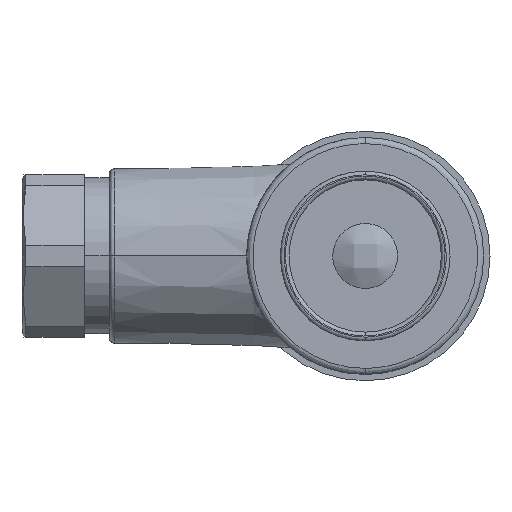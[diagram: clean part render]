
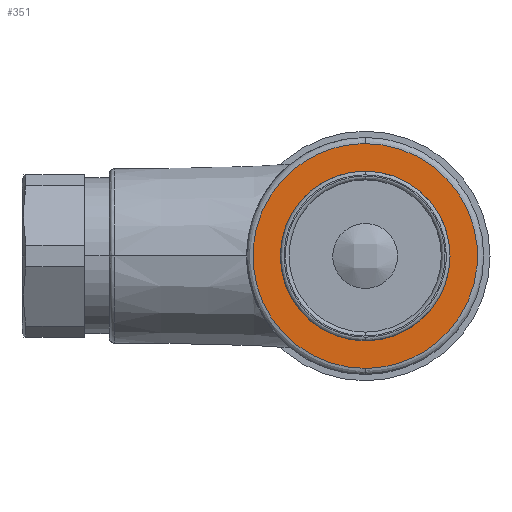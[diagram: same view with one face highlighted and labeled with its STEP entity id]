
A CAD part, left-side view. The second image highlights one B-rep face of the part: STEP entity #351.
In plain terms, the highlighted planar face has unit normal (-1, 0, 0).
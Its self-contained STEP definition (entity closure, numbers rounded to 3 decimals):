
#18 = CIRCLE ( 'NONE', #1682, 6.8 ) ;
#89 =( BOUNDED_CURVE ( )  B_SPLINE_CURVE ( 3, ( #1773, #979, #3474, #1307 ),
 .UNSPECIFIED., .F., .T. ) 
 B_SPLINE_CURVE_WITH_KNOTS ( ( 4, 4 ),
 ( 0., 1. ),
 .UNSPECIFIED. ) 
 CURVE ( )  GEOMETRIC_REPRESENTATION_ITEM ( )  RATIONAL_B_SPLINE_CURVE ( ( 1., 0.333, 0.333, 1. ) ) 
 REPRESENTATION_ITEM ( '' )  );
#189 = VERTEX_POINT ( 'NONE', #3544 ) ;
#200 = VERTEX_POINT ( 'NONE', #3113 ) ;
#227 = DIRECTION ( 'NONE',  ( 1., 0., 0. ) ) ;
#339 =( BOUNDED_CURVE ( )  B_SPLINE_CURVE ( 3, ( #5378, #773, #2971, #2542 ),
 .UNSPECIFIED., .F., .T. ) 
 B_SPLINE_CURVE_WITH_KNOTS ( ( 4, 4 ),
 ( 0., 1. ),
 .UNSPECIFIED. ) 
 CURVE ( )  GEOMETRIC_REPRESENTATION_ITEM ( )  RATIONAL_B_SPLINE_CURVE ( ( 1., 0.333, 0.333, 1. ) ) 
 REPRESENTATION_ITEM ( '' )  );
#351 = ADVANCED_FACE ( 'NONE', ( #5228, #1465 ), #4488, .F. ) ;
#399 = DIRECTION ( 'NONE',  ( -1., 0., 0. ) ) ;
#402 = EDGE_CURVE ( 'NONE', #2635, #200, #339, .T. ) ;
#422 = DIRECTION ( 'NONE',  ( 0., 0., 1. ) ) ;
#438 = AXIS2_PLACEMENT_3D ( 'NONE', #4172, #399, #422 ) ;
#773 = CARTESIAN_POINT ( 'NONE',  ( -86.8, 18., -9. ) ) ;
#979 = CARTESIAN_POINT ( 'NONE',  ( -86.8, -18., 9. ) ) ;
#1129 = EDGE_CURVE ( 'NONE', #2354, #189, #1315, .T. ) ;
#1307 = CARTESIAN_POINT ( 'NONE',  ( -86.8, 0., -9. ) ) ;
#1315 = CIRCLE ( 'NONE', #438, 6.8 ) ;
#1435 = CARTESIAN_POINT ( 'NONE',  ( -86.8, 0., 0. ) ) ;
#1465 = FACE_OUTER_BOUND ( 'NONE', #5053, .T. ) ;
#1682 = AXIS2_PLACEMENT_3D ( 'NONE', #1435, #3155, #2343 ) ;
#1698 = ORIENTED_EDGE ( 'NONE', *, *, #402, .F. ) ;
#1708 = CARTESIAN_POINT ( 'NONE',  ( -86.8, 0., -9. ) ) ;
#1773 = CARTESIAN_POINT ( 'NONE',  ( -86.8, 0., 9. ) ) ;
#2343 = DIRECTION ( 'NONE',  ( 0., 0., 1. ) ) ;
#2354 = VERTEX_POINT ( 'NONE', #4222 ) ;
#2542 = CARTESIAN_POINT ( 'NONE',  ( -86.8, 0., 9. ) ) ;
#2635 = VERTEX_POINT ( 'NONE', #1708 ) ;
#2971 = CARTESIAN_POINT ( 'NONE',  ( -86.8, 18., 9. ) ) ;
#3113 = CARTESIAN_POINT ( 'NONE',  ( -86.8, 0., 9. ) ) ;
#3155 = DIRECTION ( 'NONE',  ( -1., 0., 0. ) ) ;
#3328 = EDGE_CURVE ( 'NONE', #200, #2635, #89, .T. ) ;
#3474 = CARTESIAN_POINT ( 'NONE',  ( -86.8, -18., -9. ) ) ;
#3544 = CARTESIAN_POINT ( 'NONE',  ( -86.8, 0., -6.8 ) ) ;
#3594 = DIRECTION ( 'NONE',  ( 0., 0., 1. ) ) ;
#3662 = ORIENTED_EDGE ( 'NONE', *, *, #3801, .F. ) ;
#3801 = EDGE_CURVE ( 'NONE', #189, #2354, #18, .T. ) ;
#3938 = AXIS2_PLACEMENT_3D ( 'NONE', #4005, #227, #3594 ) ;
#4005 = CARTESIAN_POINT ( 'NONE',  ( -86.8, 0., 0. ) ) ;
#4172 = CARTESIAN_POINT ( 'NONE',  ( -86.8, 0., 0. ) ) ;
#4222 = CARTESIAN_POINT ( 'NONE',  ( -86.8, 0., 6.8 ) ) ;
#4278 = EDGE_LOOP ( 'NONE', ( #5155, #3662 ) ) ;
#4488 = PLANE ( 'NONE',  #3938 ) ;
#4959 = ORIENTED_EDGE ( 'NONE', *, *, #3328, .F. ) ;
#5053 = EDGE_LOOP ( 'NONE', ( #1698, #4959 ) ) ;
#5155 = ORIENTED_EDGE ( 'NONE', *, *, #1129, .F. ) ;
#5228 = FACE_BOUND ( 'NONE', #4278, .T. ) ;
#5378 = CARTESIAN_POINT ( 'NONE',  ( -86.8, 0., -9. ) ) ;
